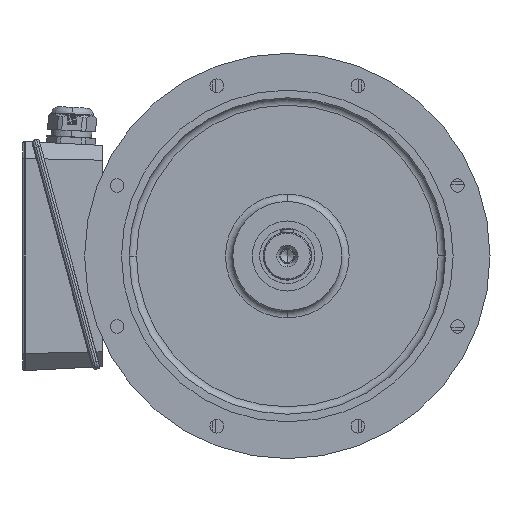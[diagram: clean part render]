
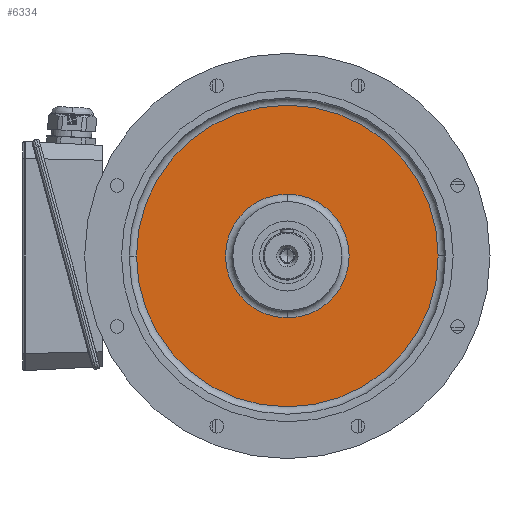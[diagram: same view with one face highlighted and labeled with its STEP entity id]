
A CAD part, left-side view. The second image highlights one B-rep face of the part: STEP entity #6334.
In plain terms, the highlighted planar face has unit normal (-1, 0, 0).
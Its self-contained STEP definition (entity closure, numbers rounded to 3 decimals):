
#8 = DIRECTION ( 'NONE',  ( 0., 1., 0. ) ) ;
#3924 = CARTESIAN_POINT ( 'NONE',  ( -326.5, 204.66, 0. ) ) ;
#4097 = DIRECTION ( 'NONE',  ( 0., 0., 1. ) ) ;
#4333 = CARTESIAN_POINT ( 'NONE',  ( -326.5, 0., 0. ) ) ;
#6062 = EDGE_CURVE ( 'NONE', #19158, #18350, #18692, .T. ) ;
#6094 = CARTESIAN_POINT ( 'NONE',  ( -326.5, 0., 83.914 ) ) ;
#6334 = ADVANCED_FACE ( 'NONE', ( #19999, #30579 ), #6721, .T. ) ;
#6721 = PLANE ( 'NONE',  #14794 ) ;
#7207 = ORIENTED_EDGE ( 'NONE', *, *, #30442, .F. ) ;
#7305 = DIRECTION ( 'NONE',  ( 1., 0., 0. ) ) ;
#7607 = DIRECTION ( 'NONE',  ( 1., 0., 0. ) ) ;
#8085 = AXIS2_PLACEMENT_3D ( 'NONE', #13267, #23914, #8 ) ;
#8117 = CIRCLE ( 'NONE', #8085, 204.66 ) ;
#8264 = CARTESIAN_POINT ( 'NONE',  ( -326.5, 0., -83.914 ) ) ;
#10019 = ORIENTED_EDGE ( 'NONE', *, *, #26251, .F. ) ;
#12813 = ORIENTED_EDGE ( 'NONE', *, *, #6062, .T. ) ;
#13267 = CARTESIAN_POINT ( 'NONE',  ( -326.5, 0., 0. ) ) ;
#14794 = AXIS2_PLACEMENT_3D ( 'NONE', #17353, #27978, #4097 ) ;
#14981 = DIRECTION ( 'NONE',  ( 1., 0., 0. ) ) ;
#15756 = VERTEX_POINT ( 'NONE', #3924 ) ;
#16570 = AXIS2_PLACEMENT_3D ( 'NONE', #4333, #14981, #25602 ) ;
#17040 = CIRCLE ( 'NONE', #16570, 204.66 ) ;
#17353 = CARTESIAN_POINT ( 'NONE',  ( -326.5, 144.287, 0. ) ) ;
#17966 = DIRECTION ( 'NONE',  ( 0., 0., -1. ) ) ;
#18278 = DIRECTION ( 'NONE',  ( 0., 0., -1. ) ) ;
#18350 = VERTEX_POINT ( 'NONE', #6094 ) ;
#18688 = AXIS2_PLACEMENT_3D ( 'NONE', #31474, #7607, #18278 ) ;
#18692 = CIRCLE ( 'NONE', #18688, 83.914 ) ;
#19158 = VERTEX_POINT ( 'NONE', #8264 ) ;
#19999 = FACE_BOUND ( 'NONE', #29265, .T. ) ;
#20677 = ORIENTED_EDGE ( 'NONE', *, *, #30146, .T. ) ;
#21370 = EDGE_LOOP ( 'NONE', ( #10019, #7207 ) ) ;
#22145 = AXIS2_PLACEMENT_3D ( 'NONE', #31175, #7305, #17966 ) ;
#22194 = CIRCLE ( 'NONE', #22145, 83.914 ) ;
#23914 = DIRECTION ( 'NONE',  ( 1., 0., 0. ) ) ;
#25602 = DIRECTION ( 'NONE',  ( 0., 1., 0. ) ) ;
#26251 = EDGE_CURVE ( 'NONE', #15756, #33505, #8117, .T. ) ;
#27978 = DIRECTION ( 'NONE',  ( -1., 0., 0. ) ) ;
#29265 = EDGE_LOOP ( 'NONE', ( #12813, #20677 ) ) ;
#30146 = EDGE_CURVE ( 'NONE', #18350, #19158, #22194, .T. ) ;
#30442 = EDGE_CURVE ( 'NONE', #33505, #15756, #17040, .T. ) ;
#30579 = FACE_OUTER_BOUND ( 'NONE', #21370, .T. ) ;
#31175 = CARTESIAN_POINT ( 'NONE',  ( -326.5, 0., 0. ) ) ;
#31474 = CARTESIAN_POINT ( 'NONE',  ( -326.5, 0., 0. ) ) ;
#33505 = VERTEX_POINT ( 'NONE', #34282 ) ;
#34282 = CARTESIAN_POINT ( 'NONE',  ( -326.5, -204.66, 0. ) ) ;
